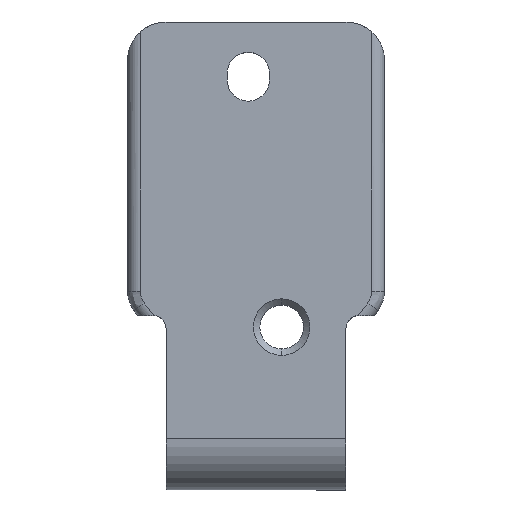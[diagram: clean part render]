
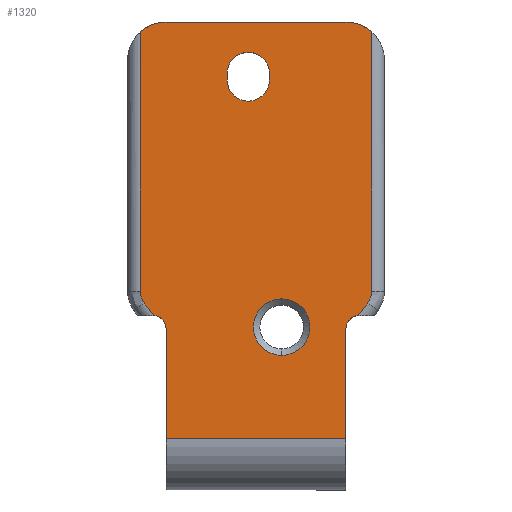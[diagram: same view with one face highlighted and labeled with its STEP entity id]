
A CAD part, top view. The second image highlights one B-rep face of the part: STEP entity #1320.
In plain terms, the highlighted planar face has unit normal (0, 0, 1).
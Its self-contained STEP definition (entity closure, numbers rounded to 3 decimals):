
#1=CARTESIAN_POINT('',(9.,-10.4,8.));
#2=DIRECTION('',(0.,0.,-1.));
#3=DIRECTION('',(0.,-1.,0.));
#4=AXIS2_PLACEMENT_3D('',#1,#2,#3);
#6=CARTESIAN_POINT('',(9.,-10.4,8.));
#7=DIRECTION('',(0.,0.,-1.));
#8=DIRECTION('',(0.,1.,0.));
#9=AXIS2_PLACEMENT_3D('',#6,#7,#8);
#11=DIRECTION('',(0.,1.,0.));
#12=VECTOR('',#11,0.5);
#13=CARTESIAN_POINT('',(8.05,8.833,8.));
#14=LINE('',#13,#12);
#15=CARTESIAN_POINT('',(6.4,9.333,8.));
#16=DIRECTION('',(0.,0.,1.));
#17=DIRECTION('',(1.,0.,0.));
#18=AXIS2_PLACEMENT_3D('',#15,#16,#17);
#20=DIRECTION('',(0.,-1.,0.));
#21=VECTOR('',#20,0.5);
#22=CARTESIAN_POINT('',(4.75,9.333,8.));
#23=LINE('',#22,#21);
#24=CARTESIAN_POINT('',(6.4,8.833,8.));
#25=DIRECTION('',(0.,0.,1.));
#26=DIRECTION('',(-1.,0.,0.));
#27=AXIS2_PLACEMENT_3D('',#24,#25,#26);
#29=CARTESIAN_POINT('',(0.,10.342,8.));
#30=DIRECTION('',(0.,0.,1.));
#31=DIRECTION('',(0.,1.,0.));
#32=AXIS2_PLACEMENT_3D('',#29,#30,#31);
#34=CARTESIAN_POINT('',(14.,10.342,8.));
#35=DIRECTION('',(0.,0.,1.));
#36=DIRECTION('',(0.667,0.745,0.));
#37=AXIS2_PLACEMENT_3D('',#34,#35,#36);
#39=CARTESIAN_POINT('',(16.,-7.603,8.));
#40=CARTESIAN_POINT('',(16.,-7.69,8.));
#41=CARTESIAN_POINT('',(15.987,-7.861,8.));
#42=CARTESIAN_POINT('',(15.929,-8.107,8.));
#43=CARTESIAN_POINT('',(15.836,-8.33,8.));
#44=CARTESIAN_POINT('',(15.753,-8.461,8.));
#45=CARTESIAN_POINT('',(15.707,-8.521,8.));
#46=CARTESIAN_POINT('',(15.707,-8.521,8.));
#48=DIRECTION('',(-0.61,-0.792,0.));
#49=VECTOR('',#48,1.244);
#50=CARTESIAN_POINT('',(15.707,-8.521,8.));
#51=LINE('',#50,#49);
#52=CARTESIAN_POINT('',(15.,-10.505,8.));
#53=DIRECTION('',(0.,0.,1.));
#54=DIRECTION('',(-0.053,0.999,0.));
#55=AXIS2_PLACEMENT_3D('',#52,#53,#54);
#57=DIRECTION('',(0.,-1.,0.));
#58=VECTOR('',#57,8.571);
#59=CARTESIAN_POINT('',(14.,-10.505,8.));
#60=LINE('',#59,#58);
#61=DIRECTION('',(0.,1.,0.));
#62=VECTOR('',#61,8.571);
#63=CARTESIAN_POINT('',(0.,-19.076,8.));
#64=LINE('',#63,#62);
#65=CARTESIAN_POINT('',(-1.,-10.505,8.));
#66=DIRECTION('',(0.,0.,1.));
#67=DIRECTION('',(1.,0.,0.));
#68=AXIS2_PLACEMENT_3D('',#65,#66,#67);
#70=DIRECTION('',(-0.61,0.792,0.));
#71=VECTOR('',#70,1.244);
#72=CARTESIAN_POINT('',(-0.947,-9.506,8.));
#73=LINE('',#72,#71);
#74=CARTESIAN_POINT('',(-1.707,-8.521,8.));
#75=CARTESIAN_POINT('',(-1.707,-8.521,8.));
#76=CARTESIAN_POINT('',(-1.754,-8.459,8.));
#77=CARTESIAN_POINT('',(-1.839,-8.325,8.));
#78=CARTESIAN_POINT('',(-1.931,-8.1,8.));
#79=CARTESIAN_POINT('',(-1.987,-7.856,8.));
#80=CARTESIAN_POINT('',(-2.,-7.688,8.));
#81=CARTESIAN_POINT('',(-2.,-7.603,8.));
#219=DIRECTION('',(1.,0.,0.));
#220=VECTOR('',#219,14.);
#221=CARTESIAN_POINT('',(0.,-19.076,8.));
#222=LINE('',#221,#220);
#436=CARTESIAN_POINT('',(16.,12.578,8.));
#438=DIRECTION('',(0.,1.,0.));
#439=VECTOR('',#438,20.181);
#440=CARTESIAN_POINT('',(16.,-7.603,8.));
#441=LINE('',#440,#439);
#513=DIRECTION('',(0.,-1.,0.));
#514=VECTOR('',#513,20.181);
#515=CARTESIAN_POINT('',(-2.,12.578,8.));
#516=LINE('',#515,#514);
#1007=DIRECTION('',(1.,0.,0.));
#1008=VECTOR('',#1007,14.);
#1009=CARTESIAN_POINT('',(0.,13.342,8.));
#1010=LINE('',#1009,#1008);
#1041=CARTESIAN_POINT('',(0.,-19.076,8.));
#1042=CARTESIAN_POINT('',(0.,-10.505,8.));
#1043=VERTEX_POINT('',#1041);
#1044=VERTEX_POINT('',#1042);
#1045=CARTESIAN_POINT('',(-0.947,-9.506,8.));
#1046=VERTEX_POINT('',#1045);
#1047=CARTESIAN_POINT('',(-1.707,-8.521,
8.));
#1048=VERTEX_POINT('',#1047);
#1049=VERTEX_POINT('',#81);
#1050=VERTEX_POINT('',#39);
#1051=VERTEX_POINT('',#46);
#1052=CARTESIAN_POINT('',(14.947,-9.506,8.));
#1053=VERTEX_POINT('',#1052);
#1054=CARTESIAN_POINT('',(14.,-10.505,8.));
#1055=VERTEX_POINT('',#1054);
#1056=CARTESIAN_POINT('',(14.,-19.076,8.));
#1057=VERTEX_POINT('',#1056);
#1161=CARTESIAN_POINT('',(9.,-12.6,8.));
#1162=CARTESIAN_POINT('',(9.,-8.2,8.));
#1163=VERTEX_POINT('',#1161);
#1164=VERTEX_POINT('',#1162);
#1205=CARTESIAN_POINT('',(8.05,8.833,8.));
#1206=CARTESIAN_POINT('',(8.05,9.333,8.));
#1207=VERTEX_POINT('',#1205);
#1208=VERTEX_POINT('',#1206);
#1209=CARTESIAN_POINT('',(4.75,9.333,8.));
#1210=VERTEX_POINT('',#1209);
#1211=CARTESIAN_POINT('',(4.75,8.833,8.));
#1212=VERTEX_POINT('',#1211);
#1221=CARTESIAN_POINT('',(0.,13.342,8.));
#1222=CARTESIAN_POINT('',(-2.,12.578,8.));
#1223=VERTEX_POINT('',#1221);
#1224=VERTEX_POINT('',#1222);
#1236=VERTEX_POINT('',#436);
#1237=CARTESIAN_POINT('',(14.,13.342,8.));
#1238=VERTEX_POINT('',#1237);
#1269=CARTESIAN_POINT('',(0.,0.,8.));
#1270=DIRECTION('',(0.,0.,1.));
#1271=DIRECTION('',(1.,0.,0.));
#1272=AXIS2_PLACEMENT_3D('',#1269,#1270,#1271);
#1273=PLANE('',#1272);
#1275=ORIENTED_EDGE('',*,*,#1274,.F.);
#1277=ORIENTED_EDGE('',*,*,#1276,.T.);
#1279=ORIENTED_EDGE('',*,*,#1278,.F.);
#1281=ORIENTED_EDGE('',*,*,#1280,.F.);
#1283=ORIENTED_EDGE('',*,*,#1282,.T.);
#1285=ORIENTED_EDGE('',*,*,#1284,.T.);
#1287=ORIENTED_EDGE('',*,*,#1286,.T.);
#1289=ORIENTED_EDGE('',*,*,#1288,.T.);
#1291=ORIENTED_EDGE('',*,*,#1290,.F.);
#1293=ORIENTED_EDGE('',*,*,#1292,.T.);
#1295=ORIENTED_EDGE('',*,*,#1294,.T.);
#1297=ORIENTED_EDGE('',*,*,#1296,.T.);
#1299=ORIENTED_EDGE('',*,*,#1298,.T.);
#1301=ORIENTED_EDGE('',*,*,#1300,.F.);
#1302=EDGE_LOOP('',(#1275,#1277,#1279,#1281,#1283,#1285,#1287,#1289,#1291,#1293,
#1295,#1297,#1299,#1301));
#1303=FACE_OUTER_BOUND('',#1302,.F.);
#1305=ORIENTED_EDGE('',*,*,#1304,.T.);
#1307=ORIENTED_EDGE('',*,*,#1306,.T.);
#1309=ORIENTED_EDGE('',*,*,#1308,.T.);
#1311=ORIENTED_EDGE('',*,*,#1310,.T.);
#1312=EDGE_LOOP('',(#1305,#1307,#1309,#1311));
#1313=FACE_BOUND('',#1312,.F.);
#1315=ORIENTED_EDGE('',*,*,#1314,.F.);
#1317=ORIENTED_EDGE('',*,*,#1316,.F.);
#1318=EDGE_LOOP('',(#1315,#1317));
#1319=FACE_BOUND('',#1318,.F.);
#1320=ADVANCED_FACE('',(#1303,#1313,#1319),#1273,.T.);
#5=CIRCLE('',#4,2.2);
#10=CIRCLE('',#9,2.2);
#19=CIRCLE('',#18,1.65);
#28=CIRCLE('',#27,1.65);
#33=CIRCLE('',#32,3.);
#38=CIRCLE('',#37,3.);
#47=B_SPLINE_CURVE_WITH_KNOTS('',3,(#39,#40,#41,#42,#43,#44,#45,#46),
.UNSPECIFIED.,.F.,.F.,(4,1,1,1,1,4),(0.,0.262,0.517,
0.763,1.,1.),.UNSPECIFIED.);
#56=CIRCLE('',#55,1.);
#69=CIRCLE('',#68,1.);
#82=B_SPLINE_CURVE_WITH_KNOTS('',3,(#74,#75,#76,#77,#78,#79,#80,#81),
.UNSPECIFIED.,.F.,.F.,(4,1,1,1,1,4),(0.,0.,0.245,
0.492,0.744,1.),.UNSPECIFIED.);
#1274=EDGE_CURVE('',#1223,#1224,#33,.T.);
#1276=EDGE_CURVE('',#1223,#1238,#1010,.T.);
#1278=EDGE_CURVE('',#1236,#1238,#38,.T.);
#1280=EDGE_CURVE('',#1050,#1236,#441,.T.);
#1282=EDGE_CURVE('',#1050,#1051,#47,.T.);
#1284=EDGE_CURVE('',#1051,#1053,#51,.T.);
#1286=EDGE_CURVE('',#1053,#1055,#56,.T.);
#1288=EDGE_CURVE('',#1055,#1057,#60,.T.);
#1290=EDGE_CURVE('',#1043,#1057,#222,.T.);
#1292=EDGE_CURVE('',#1043,#1044,#64,.T.);
#1294=EDGE_CURVE('',#1044,#1046,#69,.T.);
#1296=EDGE_CURVE('',#1046,#1048,#73,.T.);
#1298=EDGE_CURVE('',#1048,#1049,#82,.T.);
#1300=EDGE_CURVE('',#1224,#1049,#516,.T.);
#1304=EDGE_CURVE('',#1207,#1208,#14,.T.);
#1306=EDGE_CURVE('',#1208,#1210,#19,.T.);
#1308=EDGE_CURVE('',#1210,#1212,#23,.T.);
#1310=EDGE_CURVE('',#1212,#1207,#28,.T.);
#1314=EDGE_CURVE('',#1163,#1164,#5,.T.);
#1316=EDGE_CURVE('',#1164,#1163,#10,.T.);
